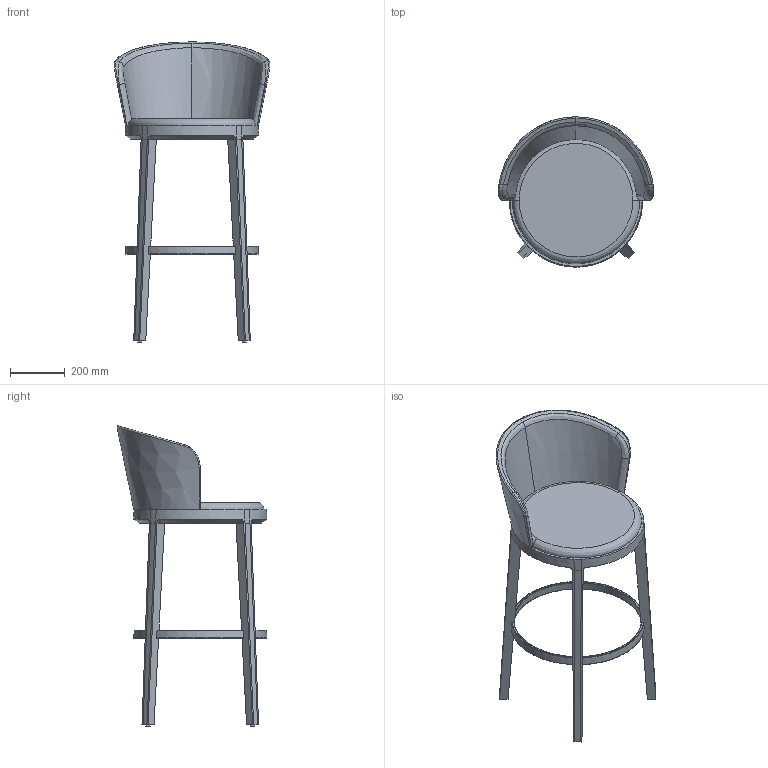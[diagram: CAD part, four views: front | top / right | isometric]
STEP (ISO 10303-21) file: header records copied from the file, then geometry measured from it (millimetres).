
FILE_DESCRIPTION(/* description */ (''),/* implementation_level */ '2;1');
FILE_NAME(/* name */ '691TH78',/* time_stamp */ '2021-03-30T08:49:13+02:00',/* author */ (''),/* organization */ (''),/* preprocessor_version */ 'ST-DEVELOPER v15',/* originating_system */ '',/* authorisation */ '');
FILE_SCHEMA (('AUTOMOTIVE_DESIGN_CC2'));
Length unit declared in the file: millimetre
Products named in the file (1): Document
Bounding box: 566.56 x 546.2 x 1094.11 mm (x, y, z)
Volume: 16296592.5 mm3; surface area: 1527737.6 mm2
Topology: 11 solids, 11 shells, 227 faces, 567 edges, 353 vertices
Faces by surface type: bspline 216, plane 11
Entity records: 16632 total; most frequent: CARTESIAN_POINT 13198, ORIENTED_EDGE 1116, EDGE_CURVE 558, B_SPLINE_CURVE_WITH_KNOTS 407, VERTEX_POINT 351, ADVANCED_FACE 227, FACE_OUTER_BOUND 227, EDGE_LOOP 227
